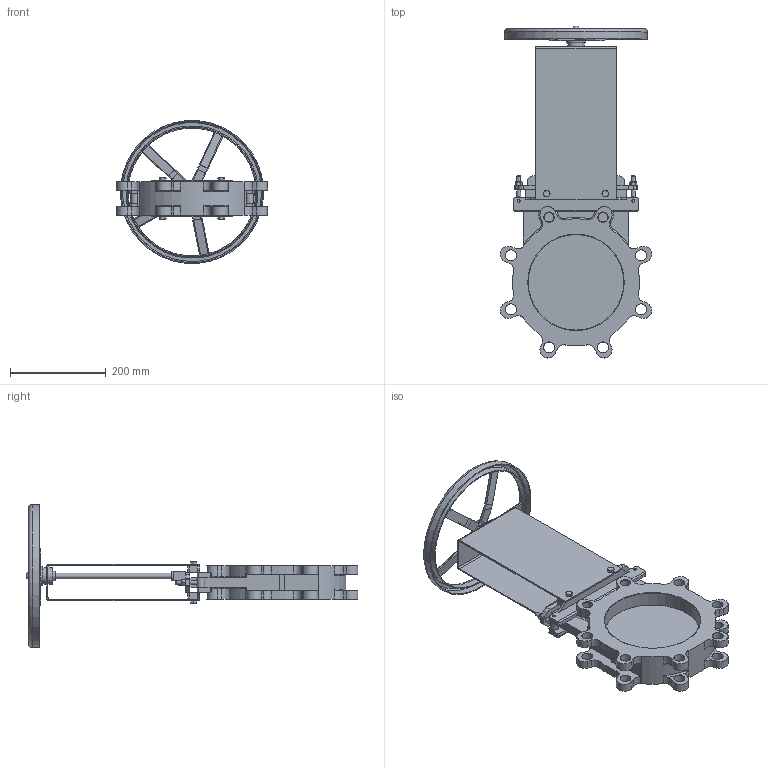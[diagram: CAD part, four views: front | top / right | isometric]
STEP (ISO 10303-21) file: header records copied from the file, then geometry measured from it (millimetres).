
FILE_DESCRIPTION(('STEP AP214'), '1');
FILE_NAME('GVKN1331N-2W-Fb-S Çàäâèæêà øèáåðíàÿ DN.ru Äó200 Ðó10', '', ('UNSPECIFIED'), ('UNSPECIFIED'), 'C3D Converter', 'C3D Toolkit', '');
FILE_SCHEMA(('AUTOMOTIVE_DESIGN { 1 0 10303 214 3 1 1}'));
Length unit declared in the file: millimetre
Products named in the file (1): GVKN1331N-2W-Fb-S
Bounding box: 316.65 x 694.93 x 298.97 mm (x, y, z)
Volume: 3334891.2 mm3; surface area: 779913.5 mm2
Topology: 1 solids, 1 shells, 767 faces, 1998 edges, 1254 vertices
Faces by surface type: plane 369, cylinder 215, cone 74, bspline 58, torus 50, sphere 1
Full cylindrical faces by diameter (mm): 4 x2, 6 x4, 7 x4, 8 x4, 12 x1, 13 x4, 16 x3, 20 x6, 21 x1, 23 x12, 25 x1, 35 x2, 36 x1, 40 x1, 200 x2, 267.828 x1, 271.828 x1, 296 x1, 300 x1
Entity records: 40522 total; most frequent: CARTESIAN_POINT 17596, ORIENTED_EDGE 3834, DIRECTION 3626, EDGE_CURVE 1917, AXIS2_PLACEMENT_3D 1350, VERTEX_POINT 1249, LINE 926, VECTOR 926
